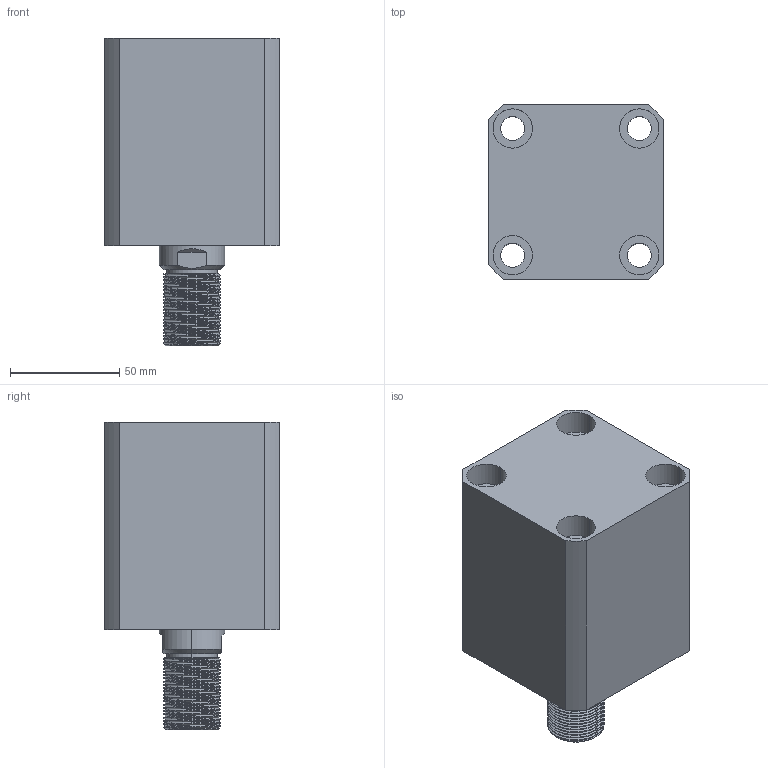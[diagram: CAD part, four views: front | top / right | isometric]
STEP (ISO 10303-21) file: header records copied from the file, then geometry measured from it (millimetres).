
FILE_DESCRIPTION (( 'STEP AP203' ), '1' );
FILE_NAME ('CHTB-SD50-35W.STEP', '2018-05-18T12:23:46', ( '' ), ( '' ), 'SwSTEP 2.0', 'SolidWorks 2015', '' );
FILE_SCHEMA (( 'CONFIG_CONTROL_DESIGN' ));
Length unit declared in the file: millimetre
Products named in the file (4): 掛极SD50-35W; CHTB-SD50-35W; 活塞杆SD50-35W; CHTM-SD50QG
Assembly tree (3 placements, depth 2):
  CHTB-SD50-35W
    掛极SD50-35W
    活塞杆SD50-35W
    CHTM-SD50QG
Bounding box: 80 x 80 x 141 mm (x, y, z)
Volume: 523527.3 mm3; surface area: 105961.7 mm2
Topology: 3 solids, 3 shells, 236 faces, 627 edges, 419 vertices
Faces by surface type: cylinder 144, plane 41, cone 19, bspline 16, torus 16
Entity records: 14613 total; most frequent: CARTESIAN_POINT 8784, ORIENTED_EDGE 1246, DIRECTION 1029, EDGE_CURVE 623, AXIS2_PLACEMENT_3D 422, VERTEX_POINT 419, EDGE_LOOP 276, ADVANCED_FACE 236
